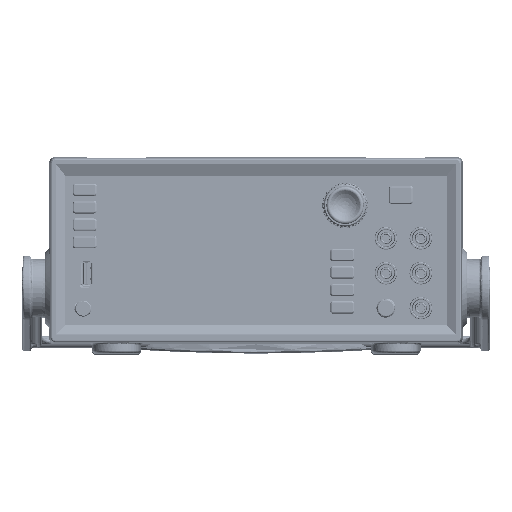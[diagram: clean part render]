
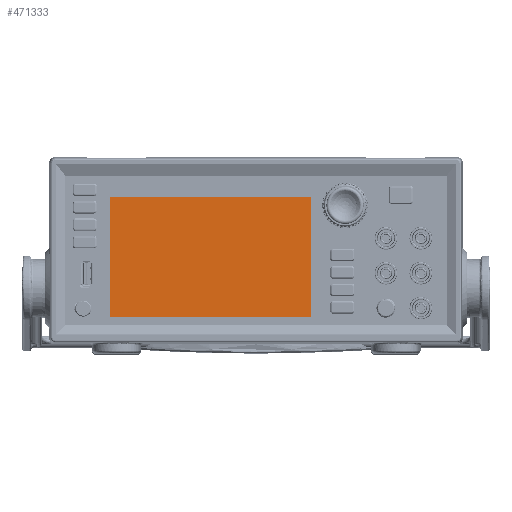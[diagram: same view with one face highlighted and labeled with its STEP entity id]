
A CAD part, top view. The second image highlights one B-rep face of the part: STEP entity #471333.
In plain terms, the highlighted planar face has unit normal (0, 0, 1).
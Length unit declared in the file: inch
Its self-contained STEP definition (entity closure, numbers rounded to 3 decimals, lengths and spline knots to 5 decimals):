
#471206=DIRECTION('',(0.,-1.,0.));
#471207=VECTOR('',#471206,2.99);
#471208=CARTESIAN_POINT('',(-2.3325,1.495,0.05));
#471209=LINE('',#471208,#471207);
#471213=DIRECTION('',(-1.,0.,0.));
#471214=VECTOR('',#471213,4.665);
#471215=CARTESIAN_POINT('',(2.3325,1.495,0.05));
#471216=LINE('',#471215,#471214);
#471220=DIRECTION('',(0.,1.,0.));
#471221=VECTOR('',#471220,2.99);
#471222=CARTESIAN_POINT('',(2.3325,-1.495,0.05));
#471223=LINE('',#471222,#471221);
#471227=DIRECTION('',(1.,0.,0.));
#471228=VECTOR('',#471227,4.665);
#471229=CARTESIAN_POINT('',(-2.3325,-1.495,0.05));
#471230=LINE('',#471229,#471228);
#471242=CARTESIAN_POINT('',(-2.3325,1.495,0.05));
#471243=CARTESIAN_POINT('',(-2.3325,-1.495,0.05));
#471244=VERTEX_POINT('',#471242);
#471245=VERTEX_POINT('',#471243);
#471246=CARTESIAN_POINT('',(2.3325,-1.495,0.05));
#471247=VERTEX_POINT('',#471246);
#471248=CARTESIAN_POINT('',(2.3325,1.495,0.05));
#471249=VERTEX_POINT('',#471248);
#471322=CARTESIAN_POINT('',(0.,0.,0.05));
#471323=DIRECTION('',(0.,0.,1.));
#471324=DIRECTION('',(1.,0.,0.));
#471325=AXIS2_PLACEMENT_3D('',#471322,#471323,#471324);
#471326=PLANE('',#471325);
#471327=ORIENTED_EDGE('',*,*,#471274,.F.);
#471328=ORIENTED_EDGE('',*,*,#471289,.F.);
#471329=ORIENTED_EDGE('',*,*,#471303,.F.);
#471330=ORIENTED_EDGE('',*,*,#471316,.F.);
#471331=EDGE_LOOP('',(#471327,#471328,#471329,#471330));
#471332=FACE_OUTER_BOUND('',#471331,.F.);
#471274=EDGE_CURVE('',#471244,#471245,#471209,.T.);
#471289=EDGE_CURVE('',#471249,#471244,#471216,.T.);
#471303=EDGE_CURVE('',#471247,#471249,#471223,.T.);
#471316=EDGE_CURVE('',#471245,#471247,#471230,.T.);
#471333=ADVANCED_FACE('',(#471332),#471326,.T.);
